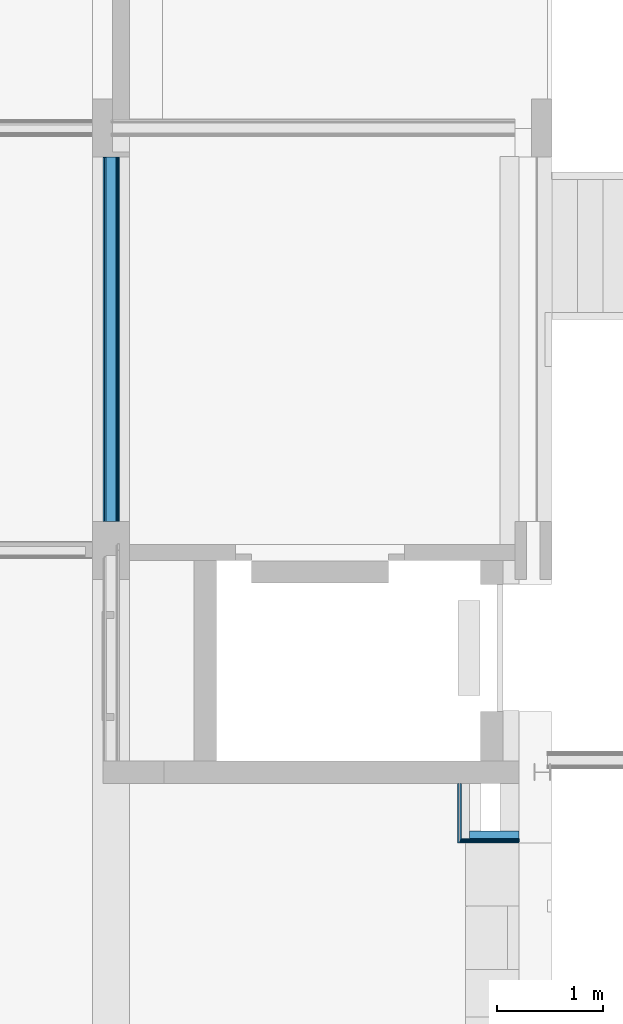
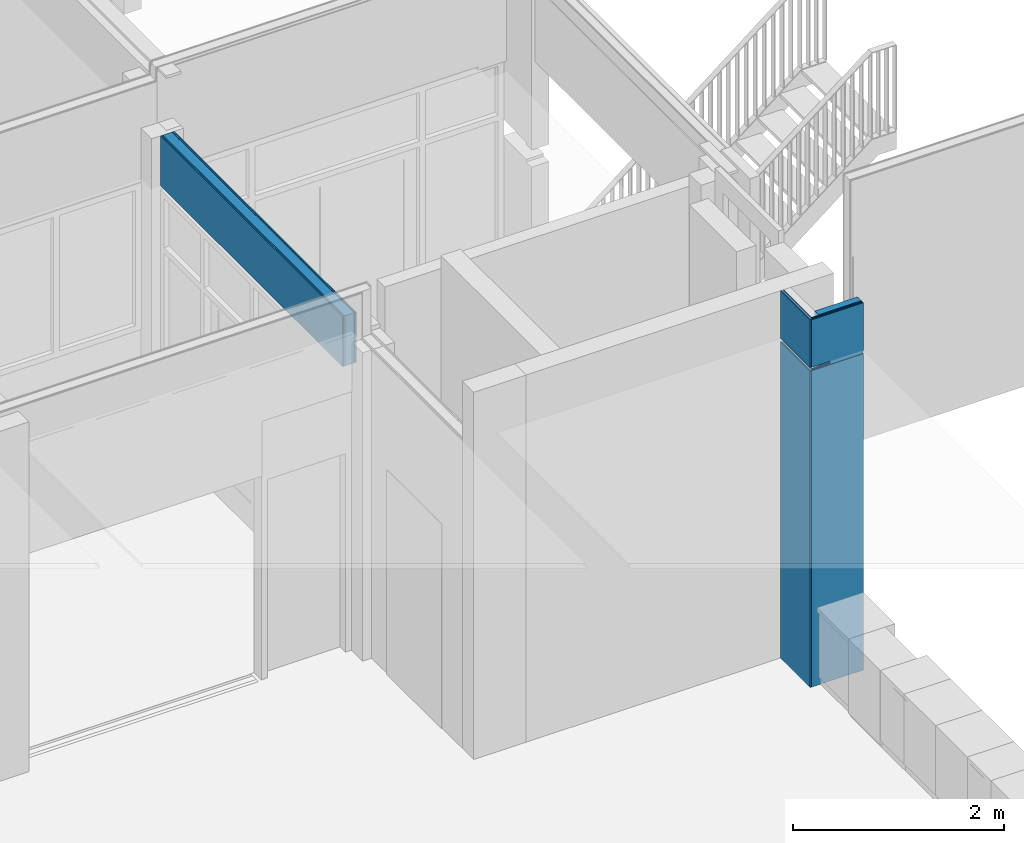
# One storey, part 54 of 94: 11 building element parts, 1 opening, 3 elements without a shape of their own.
"""IFC2X3 building model written with IfcOpenShell, lengths in millimetres."""

from ifc_helpers import new_model, entity, si_unit, converted_unit, derived_unit, money_unit, direction, frame, origin_with_axes, place, context, subcontext, project, spatial, faceted_brep, material, type_object, element, aggregate, save


model = new_model("IFC2X3")

# Units and contexts
model_context = context("Model", 3, precision=0.01, world=origin_with_axes(), true_north=direction((0.0, 1.0)))
body_context = subcontext(model_context, "Body", "Model", "MODEL_VIEW")
ifc_project = project(units=[si_unit("LENGTHUNIT", "METRE", prefix="MILLI"), si_unit("AREAUNIT", "SQUARE_METRE"), si_unit("VOLUMEUNIT", "CUBIC_METRE"), converted_unit("PLANEANGLEUNIT", "DEGREE", entity("IfcPlaneAngleMeasure", 0.0174532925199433), si_unit("PLANEANGLEUNIT", "RADIAN"), dimensions=[0, 0, 0, 0, 0, 0, 0]), money_unit("EUR"), converted_unit("TIMEUNIT", "Year", entity("IfcTimeMeasure", 31557600.0), si_unit("TIMEUNIT", "SECOND"), dimensions=[0, 0, 1, 0, 0, 0, 0]), si_unit("MASSUNIT", "GRAM", prefix="KILO"), si_unit("THERMODYNAMICTEMPERATUREUNIT", "DEGREE_CELSIUS"), si_unit("LUMINOUSINTENSITYUNIT", "LUMEN"), si_unit("ENERGYUNIT", "JOULE", prefix="MEGA"), derived_unit("THERMALCONDUCTANCEUNIT", [(si_unit("POWERUNIT", "WATT"), 1), (si_unit("LENGTHUNIT", "METRE"), -1), (si_unit("THERMODYNAMICTEMPERATUREUNIT", "KELVIN"), -1)]), derived_unit("SPECIFICHEATCAPACITYUNIT", [(si_unit("ENERGYUNIT", "JOULE"), 1), (si_unit("MASSUNIT", "GRAM", prefix="KILO"), -1), (si_unit("THERMODYNAMICTEMPERATUREUNIT", "KELVIN"), -1)]), derived_unit("MASSDENSITYUNIT", [(si_unit("MASSUNIT", "GRAM", prefix="KILO"), 1), (si_unit("VOLUMEUNIT", "CUBIC_METRE"), -1)])], contexts=[model_context])

# Site, building, storey
site_placement = place(None, origin_with_axes())
site = spatial("IfcSite", under=ifc_project, at=site_placement, Name="<site naam>", CompositionType="ELEMENT")
building_placement = place(site_placement, origin_with_axes())
building = spatial("IfcBuilding", under=site, at=building_placement, Name="<Naam gebouw>", CompositionType="ELEMENT")
storey_placement = place(building_placement, frame((0.0, 0.0, 4250.0), z_axis=(0.0, 0.0, 1.0), x_axis=(1.0, 0.0, 0.0)))
storey = spatial("IfcBuildingStorey", under=building, at=storey_placement, Name="01 1e verdieping", CompositionType="ELEMENT", Elevation=4250.0)

# Wall, opening, building element parts
wall_type_1 = type_object("IfcWallType", Name="MS-01 GF 150 ECO DGS/2.100.2.A 150", PredefinedType="NOTDEFINED")
wall_1_placement = place(storey_placement, frame((48000.00000000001, 8275.000000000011, 0.0), z_axis=(0.0, 0.0, 1.0), x_axis=(0.0, 1.0, 0.0)))
wall_1 = element("IfcWall", 1, at=wall_1_placement, inside=storey, type_object=wall_type_1, Name="22_Binnenwand_MS-01")
opening_placement = place(wall_1_placement, frame((1725.0, 0.0, 0.0), z_axis=(0.0, 0.0, 1.0), x_axis=(1.0, 0.0, 0.0)))
element("IfcOpeningElement", 2, at=opening_placement, cuts=wall_1, Name="22_BI-D-03_305", context=body_context, shape_type="Brep", body=[
    faceted_brep([(-1724.999999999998, -76.00000000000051, 3000.0), (-1724.999999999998, -76.00000000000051, 0.0), (1724.999999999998, -76.00000000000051, 0.0), (1724.999999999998, -76.00000000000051, 3000.0), (-1724.999999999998, 76.00000000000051, 3000.0), (-1724.999999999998, 76.00000000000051, 0.0), (1724.999999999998, 76.00000000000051, 0.0), (1724.999999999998, 76.00000000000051, 3000.0)], [[[0, 1, 2, 3]], [[4, 5, 1, 0]], [[5, 6, 2, 1]], [[6, 7, 3, 2]], [[7, 4, 0, 3]], [[6, 5, 4, 7]]]),
])
ifc_material_1 = material(Name="gipsplaat")
building_element_part_1_placement = place(wall_1_placement, origin_with_axes())
building_element_part_1 = element("IfcBuildingElementPart", 3, at=building_element_part_1_placement, material=ifc_material_1, Name="gipsplaat", context=body_context, shape_type="Brep", body=[
    faceted_brep([(3449.999999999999, 75.00000000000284, 3619.999999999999), (3449.999999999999, 62.5, 3619.999999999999), (3449.999999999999, 62.5, 3040.0), (3449.999999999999, 75.00000000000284, 3040.0), (0.0, 62.5, 3619.999999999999), (0.0, 75.00000000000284, 3619.999999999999), (0.0, 62.5, 3040.0), (0.0, 75.00000000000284, 3040.0)], [[[0, 1, 2, 3]], [[4, 1, 0, 5]], [[1, 4, 6, 2]], [[7, 3, 2, 6]], [[5, 0, 3, 7]], [[4, 5, 7, 6]]]),
    faceted_brep([(0.0, 62.5, 3.000000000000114), (3449.999999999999, 62.5, 3.000000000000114), (3449.999999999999, 62.5, 3000.0), (0.0, 62.5, 3000.0), (3449.999999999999, 75.00000000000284, 3.000000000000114), (0.0, 75.00000000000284, 3.000000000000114), (3449.999999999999, 75.00000000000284, 3000.0), (0.0, 75.00000000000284, 3000.0)], [[[0, 1, 2, 3]], [[4, 1, 0, 5]], [[1, 4, 6, 2]], [[3, 2, 6, 7]], [[5, 0, 3, 7]], [[4, 5, 7, 6]]]),
])
building_element_part_2_placement = place(wall_1_placement, origin_with_axes())
building_element_part_2 = element("IfcBuildingElementPart", 4, at=building_element_part_2_placement, material=ifc_material_1, Name="gipsplaat", context=body_context, shape_type="Brep", body=[
    faceted_brep([(3449.999999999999, 62.5, 3619.999999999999), (3449.999999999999, 49.99999999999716, 3619.999999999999), (3449.999999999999, 49.99999999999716, 3040.0), (3449.999999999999, 62.5, 3040.0), (0.0, 49.99999999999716, 3619.999999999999), (0.0, 62.5, 3619.999999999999), (0.0, 49.99999999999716, 3040.0), (0.0, 62.5, 3040.0)], [[[0, 1, 2, 3]], [[4, 1, 0, 5]], [[1, 4, 6, 2]], [[7, 3, 2, 6]], [[5, 0, 3, 7]], [[4, 5, 7, 6]]]),
    faceted_brep([(0.0, 49.99999999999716, 3.000000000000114), (3449.999999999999, 49.99999999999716, 3.000000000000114), (3449.999999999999, 49.99999999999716, 3000.0), (0.0, 49.99999999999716, 3000.0), (3449.999999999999, 62.5, 3.000000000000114), (0.0, 62.5, 3.000000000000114), (3449.999999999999, 62.5, 3000.0), (0.0, 62.5, 3000.0)], [[[0, 1, 2, 3]], [[4, 1, 0, 5]], [[1, 4, 6, 2]], [[3, 2, 6, 7]], [[5, 0, 3, 7]], [[4, 5, 7, 6]]]),
])
ifc_material_2 = material(Name="isolatie_steenwol LSW")
building_element_part_3_placement = place(wall_1_placement, origin_with_axes())
building_element_part_3 = element("IfcBuildingElementPart", 5, at=building_element_part_3_placement, material=ifc_material_2, Name="isolatie_steenwol LSW", context=body_context, shape_type="Brep", body=[
    faceted_brep([(3449.999999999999, 49.99999999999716, 3619.999999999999), (3449.999999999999, -49.99999999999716, 3619.999999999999), (3449.999999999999, -49.99999999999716, 3040.0), (3449.999999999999, 49.99999999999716, 3040.0), (0.0, -49.99999999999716, 3619.999999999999), (0.0, 49.99999999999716, 3619.999999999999), (0.0, -49.99999999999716, 3040.0), (0.0, 49.99999999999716, 3040.0)], [[[0, 1, 2, 3]], [[4, 1, 0, 5]], [[1, 4, 6, 2]], [[7, 3, 2, 6]], [[5, 0, 3, 7]], [[4, 5, 7, 6]]]),
    faceted_brep([(0.0, -49.99999999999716, 3.000000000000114), (3449.999999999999, -49.99999999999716, 3.000000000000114), (3449.999999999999, -49.99999999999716, 3000.0), (0.0, -49.99999999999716, 3000.0), (3449.999999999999, 49.99999999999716, 3.000000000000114), (0.0, 49.99999999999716, 3.000000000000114), (3449.999999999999, 49.99999999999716, 3000.0), (0.0, 49.99999999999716, 3000.0)], [[[0, 1, 2, 3]], [[4, 1, 0, 5]], [[1, 4, 6, 2]], [[3, 2, 6, 7]], [[5, 0, 3, 7]], [[4, 5, 7, 6]]]),
])
building_element_part_4_placement = place(wall_1_placement, origin_with_axes())
building_element_part_4 = element("IfcBuildingElementPart", 6, at=building_element_part_4_placement, material=ifc_material_1, Name="gipsplaat", context=body_context, shape_type="Brep", body=[
    faceted_brep([(3449.999999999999, -49.99999999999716, 3619.999999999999), (3449.999999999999, -62.5, 3619.999999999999), (3449.999999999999, -62.5, 3040.0), (3449.999999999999, -49.99999999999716, 3040.0), (0.0, -62.5, 3619.999999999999), (0.0, -49.99999999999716, 3619.999999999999), (0.0, -62.5, 3040.0), (0.0, -49.99999999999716, 3040.0)], [[[0, 1, 2, 3]], [[4, 1, 0, 5]], [[1, 4, 6, 2]], [[7, 3, 2, 6]], [[5, 0, 3, 7]], [[4, 5, 7, 6]]]),
    faceted_brep([(0.0, -62.5, 3.000000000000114), (3449.999999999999, -62.5, 3.000000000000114), (3449.999999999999, -62.5, 3000.0), (0.0, -62.5, 3000.0), (3449.999999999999, -49.99999999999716, 3.000000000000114), (0.0, -49.99999999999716, 3.000000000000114), (3449.999999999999, -49.99999999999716, 3000.0), (0.0, -49.99999999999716, 3000.0)], [[[0, 1, 2, 3]], [[4, 1, 0, 5]], [[1, 4, 6, 2]], [[3, 2, 6, 7]], [[5, 0, 3, 7]], [[4, 5, 7, 6]]]),
])
building_element_part_5_placement = place(wall_1_placement, origin_with_axes())
building_element_part_5 = element("IfcBuildingElementPart", 7, at=building_element_part_5_placement, material=ifc_material_1, Name="gipsplaat", context=body_context, shape_type="Brep", body=[
    faceted_brep([(3449.999999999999, -62.5, 3619.999999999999), (3449.999999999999, -75.00000000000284, 3619.999999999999), (3449.999999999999, -75.00000000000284, 3040.0), (3449.999999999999, -62.5, 3040.0), (0.0, -75.00000000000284, 3619.999999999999), (0.0, -62.5, 3619.999999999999), (0.0, -75.00000000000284, 3040.0), (0.0, -62.5, 3040.0)], [[[0, 1, 2, 3]], [[4, 1, 0, 5]], [[1, 4, 6, 2]], [[7, 3, 2, 6]], [[5, 0, 3, 7]], [[4, 5, 7, 6]]]),
    faceted_brep([(0.0, -75.00000000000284, 3.000000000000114), (3449.999999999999, -75.00000000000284, 3.000000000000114), (3449.999999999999, -75.00000000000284, 3000.0), (0.0, -75.00000000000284, 3000.0), (3449.999999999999, -62.5, 3.000000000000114), (0.0, -62.5, 3.000000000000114), (3449.999999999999, -62.5, 3000.0), (0.0, -62.5, 3000.0)], [[[0, 1, 2, 3]], [[4, 1, 0, 5]], [[1, 4, 6, 2]], [[3, 2, 6, 7]], [[5, 0, 3, 7]], [[4, 5, 7, 6]]]),
])
aggregate(wall_1, [building_element_part_1, building_element_part_2, building_element_part_3, building_element_part_4, building_element_part_5])

# Wall, building element part
wall_type_2 = type_object("IfcWallType", Name="MS-04 GF 138 V/100.3.A 113", PredefinedType="NOTDEFINED")
wall_2_placement = place(storey_placement, frame((51395.00000000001, 5340.999998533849, 0.0), z_axis=(0.0, 0.0, 1.0), x_axis=(1.0, 0.0, 0.0)))
wall_2 = element("IfcWall", 8, at=wall_2_placement, inside=storey, type_object=wall_type_2, Name="22_Binnenwand_MS-04")
building_element_part_6_placement = place(wall_2_placement, origin_with_axes())
building_element_part_6 = element("IfcBuildingElementPart", 9, at=building_element_part_6_placement, material=ifc_material_2, Name="isolatie_steenwol LSW", context=body_context, shape_type="Brep", body=[
    faceted_brep([(0.0, 0.0, 3660.0), (107.5000000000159, 0.0, 3660.0), (107.5000000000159, 0.0, 3700.0), (0.0, 0.0, 3700.0), (0.0, 0.0, 4250.0), (470.0000000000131, 0.0, 4250.0), (470.0000000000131, 0.0, 0.0), (0.0, 0.0, 0.0), (0.0, -74.99999999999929, 3660.0), (107.5000000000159, -75.00000000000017, 3660.0), (107.5000000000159, -75.00000000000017, 3700.0), (0.0, -74.99999999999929, 3700.0), (0.0, -74.99999999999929, 4250.0), (470.0000000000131, -74.99999999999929, 4250.0), (470.0000000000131, -75.00000000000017, 0.0), (0.0, -75.00000000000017, 0.0)], [[[0, 1, 2, 3, 4, 5, 6, 7]], [[1, 0, 8, 9]], [[2, 1, 9, 10]], [[3, 2, 10, 11]], [[3, 11, 12, 4]], [[12, 13, 5, 4]], [[14, 6, 5, 13]], [[7, 6, 14, 15]], [[8, 0, 7, 15]], [[9, 8, 15, 14, 13, 12, 11, 10]]]),
])

# Wall, building element parts
wall_3_placement = place(storey_placement, frame((51395.00000000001, 5790.99999853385, 0.0), z_axis=(0.0, 0.0, 1.0), x_axis=(0.0, -1.0, 0.0)))
wall_3 = element("IfcWall", 10, at=wall_3_placement, inside=storey, type_object=wall_type_2, Name="22_Binnenwand_MS-04")
building_element_part_7_placement = place(wall_3_placement, origin_with_axes())
building_element_part_7 = element("IfcBuildingElementPart", 11, at=building_element_part_7_placement, material=ifc_material_1, Name="gipsplaat", context=body_context, shape_type="Brep", body=[
    faceted_brep([(0.0, -112.4999999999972, 3660.0), (0.0, -100.0000000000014, 3660.0), (0.0, -100.0000000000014, 0.0), (0.0, -112.4999999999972, 0.0), (562.5, -100.0000000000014, 3660.0), (562.5, -112.4999999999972, 3660.0), (562.5, -100.0000000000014, 0.0), (562.5, -112.4999999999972, 0.0)], [[[0, 1, 2, 3]], [[4, 1, 0, 5]], [[1, 4, 6, 2]], [[6, 7, 3, 2]], [[5, 0, 3, 7]], [[4, 5, 7, 6]]]),
    faceted_brep([(562.5, -100.0000000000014, 3700.0), (0.0, -100.0000000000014, 3700.0), (0.0, -100.0000000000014, 4250.0), (562.5, -100.0000000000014, 4250.0), (0.0, -112.4999999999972, 3700.0), (562.5, -112.4999999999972, 3700.0), (0.0, -112.4999999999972, 4250.0), (562.5, -112.4999999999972, 4250.0)], [[[0, 1, 2, 3]], [[4, 1, 0, 5]], [[1, 4, 6, 2]], [[7, 3, 2, 6]], [[5, 0, 3, 7]], [[4, 5, 7, 6]]]),
])
building_element_part_8_placement = place(wall_3_placement, origin_with_axes())
building_element_part_8 = element("IfcBuildingElementPart", 12, at=building_element_part_8_placement, material=ifc_material_1, Name="gipsplaat", context=body_context, shape_type="Brep", body=[
    faceted_brep([(0.0, -87.49999999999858, 3660.0), (0.0, -75.00000000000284, 3660.0), (0.0, -75.00000000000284, 0.0), (0.0, -87.49999999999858, 0.0), (537.5000000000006, -75.00000000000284, 3660.0), (537.5000000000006, -87.49999999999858, 3660.0), (537.5000000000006, -75.00000000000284, 0.0), (537.5000000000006, -87.49999999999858, 0.0)], [[[0, 1, 2, 3]], [[4, 1, 0, 5]], [[1, 4, 6, 2]], [[6, 7, 3, 2]], [[5, 0, 3, 7]], [[4, 5, 7, 6]]]),
    faceted_brep([(537.5000000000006, -75.00000000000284, 3700.0), (0.0, -75.00000000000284, 3700.0), (0.0, -75.00000000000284, 4250.0), (537.5000000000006, -75.00000000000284, 4250.0), (0.0, -87.49999999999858, 3700.0), (537.5000000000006, -87.49999999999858, 3700.0), (0.0, -87.49999999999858, 4250.0), (537.5000000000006, -87.49999999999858, 4250.0)], [[[0, 1, 2, 3]], [[4, 1, 0, 5]], [[1, 4, 6, 2]], [[7, 3, 2, 6]], [[5, 0, 3, 7]], [[4, 5, 7, 6]]]),
])
aggregate(wall_3, [building_element_part_7, building_element_part_8])

# Building element part
building_element_part_9_placement = place(wall_2_placement, origin_with_axes())
building_element_part_9 = element("IfcBuildingElementPart", 13, at=building_element_part_9_placement, material=ifc_material_1, Name="gipsplaat", context=body_context, shape_type="Brep", body=[
    faceted_brep([(-75.00000000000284, -75.00000000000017, 3660.0), (107.5000000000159, -74.99999999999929, 3660.0), (107.5000000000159, -74.99999999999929, 3700.0), (-75.00000000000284, -75.00000000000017, 3700.0), (-75.00000000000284, -75.00000000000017, 4250.0), (470.0000000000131, -74.99999999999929, 4250.0), (470.0000000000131, -75.00000000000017, 0.0), (-75.00000000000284, -75.00000000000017, 0.0), (-75.00000000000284, -87.49999999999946, 3660.0), (107.5000000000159, -87.50000000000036, 3660.0), (107.5000000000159, -87.50000000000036, 3700.0), (-75.00000000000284, -87.49999999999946, 3700.0), (-75.00000000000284, -87.49999999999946, 4250.0), (470.0000000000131, -87.49999999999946, 4250.0), (470.0000000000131, -87.50000000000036, 0.0), (-75.00000000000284, -87.50000000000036, 0.0)], [[[0, 1, 2, 3, 4, 5, 6, 7]], [[1, 0, 8, 9]], [[2, 1, 9, 10]], [[3, 2, 10, 11]], [[3, 11, 12, 4]], [[12, 13, 5, 4]], [[14, 6, 5, 13]], [[7, 6, 14, 15]], [[8, 0, 7, 15]], [[9, 8, 15, 14, 13, 12, 11, 10]]]),
])

building_element_part_10_placement = place(wall_2_placement, origin_with_axes())
building_element_part_10 = element("IfcBuildingElementPart", 14, at=building_element_part_10_placement, material=ifc_material_1, Name="gipsplaat", context=body_context, shape_type="Brep", body=[
    faceted_brep([(-87.49999999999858, -87.49999999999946, 3660.0), (107.5000000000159, -87.49999999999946, 3660.0), (107.5000000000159, -87.49999999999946, 3700.0), (-87.49999999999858, -87.49999999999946, 3700.0), (-87.49999999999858, -87.49999999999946, 4250.0), (470.0000000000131, -87.49999999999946, 4250.0), (470.0000000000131, -87.50000000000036, 0.0), (-87.49999999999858, -87.50000000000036, 0.0), (-87.49999999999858, -99.99999999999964, 3660.0), (107.5000000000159, -99.99999999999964, 3660.0), (107.5000000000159, -99.99999999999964, 3700.0), (-87.49999999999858, -99.99999999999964, 3700.0), (-87.49999999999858, -99.99999999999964, 4250.0), (470.0000000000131, -99.99999999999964, 4250.0), (470.0000000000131, -99.99999999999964, 0.0), (-87.49999999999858, -99.99999999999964, 0.0)], [[[0, 1, 2, 3, 4, 5, 6, 7]], [[1, 0, 8, 9]], [[2, 1, 9, 10]], [[3, 2, 10, 11]], [[3, 11, 12, 4]], [[12, 13, 5, 4]], [[14, 6, 5, 13]], [[7, 6, 14, 15]], [[8, 0, 7, 15]], [[9, 8, 15, 14, 13, 12, 11, 10]]]),
])

building_element_part_11_placement = place(wall_2_placement, origin_with_axes())
building_element_part_11 = element("IfcBuildingElementPart", 15, at=building_element_part_11_placement, material=ifc_material_1, Name="gipsplaat", context=body_context, shape_type="Brep", body=[
    faceted_brep([(-100.0000000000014, -99.99999999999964, 3660.0), (107.5000000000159, -99.99999999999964, 3660.0), (107.5000000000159, -99.99999999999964, 3700.0), (-100.0000000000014, -99.99999999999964, 3700.0), (-100.0000000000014, -99.99999999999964, 4250.0), (470.0000000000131, -99.99999999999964, 4250.0), (470.0000000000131, -99.99999999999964, 0.0), (-100.0000000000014, -99.99999999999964, 0.0), (107.5000000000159, -107.1012451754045, 3660.0), (-100.0000000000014, -112.4999999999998, 3660.0), (470.0000000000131, -112.4999999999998, 3660.0), (470.0000000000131, -107.1012451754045, 3660.0), (107.5000000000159, -107.1012451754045, 3700.0), (-100.0000000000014, -112.4999999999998, 3700.0), (470.0000000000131, -107.1012451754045, 3700.0), (470.0000000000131, -112.4999999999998, 3700.0), (-100.0000000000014, -112.4999999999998, 4250.0), (470.0000000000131, -112.4999999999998, 4250.0), (470.0000000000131, -112.4999999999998, 0.0), (-100.0000000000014, -112.4999999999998, 0.0)], [[[0, 1, 2, 3, 4, 5, 6, 7]], [[8, 1, 0, 9, 10, 11]], [[2, 1, 8, 12]], [[13, 3, 2, 12, 14, 15]], [[3, 13, 16, 4]], [[16, 17, 5, 4]], [[11, 10, 18, 6, 5, 17, 15, 14]], [[7, 6, 18, 19]], [[9, 0, 7, 19]], [[9, 19, 18, 10]], [[12, 8, 11, 14]], [[13, 15, 17, 16]]]),
])

aggregate(wall_2, [building_element_part_6, building_element_part_9, building_element_part_10, building_element_part_11])

save(model, "model.ifc")
